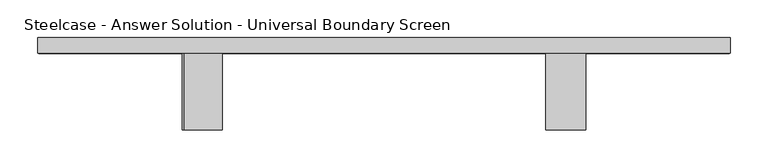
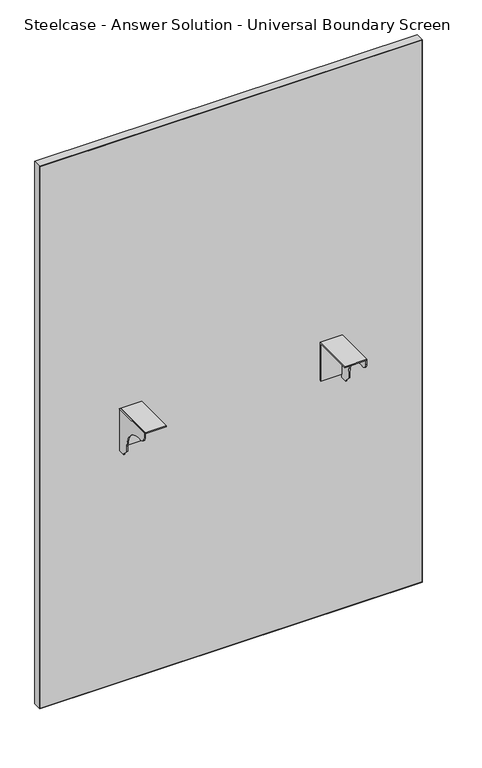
"""IFC4 building model written with IfcOpenShell, lengths in millimetres: furniture geometry, Steelcase - Answer Solution - Universal Boundary Screen : 54H x 36W."""

from ifc_helpers import new_model, si_unit, point, frame, frame_2d, origin, place, context, project, spatial, polyline, circle_curve, trimmed, segment, composite_curve, outline, extrude, source, transform, mapped, element, save


def steelcase_answer_solution_universal_boundary_screen_0e4965b4(model_context):
    return source(origin(), model_context, "Body", "SweptSolid", [
        extrude(outline(polyline([(-103.1670434, 689.3558876), (-103.1670434, 692.1499758), (-1.5668826, 692.1499758), (-1.5668826, 595.5029317), (-4.1079736, 595.5029317), (-4.1079736, 689.3558876), (-103.1670434, 689.3558876)])), frame((743.4336711, 0.0, 0.0), z_axis=(1.0, 0.0, 0.0), x_axis=(0.0, 1.0, 0.0)), (0.0, 0.0, 1.0), 53.3444116),
        extrude(outline(composite_curve([segment(polyline([(-103.1670434, 679.2814802), (-103.1670434, 692.1499758), (-1.5668826, 692.1499758), (-1.5668826, 586.9634093), (-19.8232934, 586.9634093), (-19.8232934, 589.7574248), (-32.0458032, 601.9799346), (-32.0458032, 615.7814802)]), True, "CONTINUOUS"), segment(trimmed(circle_curve(frame_2d((-82.8458032, 615.7814802)), 50.8), [point((-32.0458032, 615.7814802))], [point((-82.8458032, 666.5814802))], True, "CARTESIAN"), True, "CONTINUOUS"), segment(polyline([(-82.8458032, 666.5814802), (-90.4670434, 666.5814802)]), True, "CONTINUOUS"), segment(trimmed(circle_curve(frame_2d((-90.4670434, 679.2814802)), 12.7), [point((-90.4670434, 666.5814802))], [point((-103.1670434, 679.2814802))], False, "CARTESIAN"), True, "CONTINUOUS")], self_intersect=False)), frame((794.2328959, 0.0, 0.0), z_axis=(1.0, 0.0, 0.0), x_axis=(0.0, 1.0, 0.0)), (0.0, 0.0, 1.0), 2.5451868),
        extrude(outline(polyline([(-103.1670434, 689.3558876), (-103.1670434, 692.1499758), (-1.5668826, 692.1499758), (-1.5668826, 595.5029317), (-4.1079736, 595.5029317), (-4.1079736, 689.3558876), (-103.1670434, 689.3558876)])), frame((265.9232694, 0.0, 0.0), z_axis=(1.0, 0.0, 0.0), x_axis=(0.0, 1.0, 0.0)), (0.0, 0.0, 1.0), 50.7992249),
        extrude(outline(composite_curve([segment(polyline([(-103.1670434, 679.2814802), (-103.1670434, 692.1499758), (-1.5668826, 692.1499758), (-1.5668826, 586.9634093), (-19.8232934, 586.9634093), (-19.8232934, 589.7574248), (-32.0458032, 601.9799346), (-32.0458032, 615.7814802)]), True, "CONTINUOUS"), segment(trimmed(circle_curve(frame_2d((-82.8458032, 615.7814802)), 50.8), [point((-32.0458032, 615.7814802))], [point((-82.8458032, 666.5814802))], True, "CARTESIAN"), True, "CONTINUOUS"), segment(polyline([(-82.8458032, 666.5814802), (-90.4670434, 666.5814802)]), True, "CONTINUOUS"), segment(trimmed(circle_curve(frame_2d((-90.4670434, 679.2814802)), 12.7), [point((-90.4670434, 666.5814802))], [point((-103.1670434, 679.2814802))], False, "CARTESIAN"), True, "CONTINUOUS")], self_intersect=False)), frame((263.3780827, 0.0, 0.0), z_axis=(1.0, 0.0, 0.0), x_axis=(0.0, 1.0, 0.0)), (0.0, 0.0, 1.0), 2.5451868),
        extrude(outline(polyline([(73.8706578, 18.9055112), (986.2855076, 18.9055112), (986.2855076, -1.5668826), (73.8706578, -1.5668826), (73.8706578, 18.9055112)])), frame((0.0, 0.0, 1.016), z_axis=(0.0, 0.0, 1.0), x_axis=(1.0, 0.0, 0.0)), (0.0, 0.0, 1.0), 1369.5914249),
        extrude(outline(polyline([(1371.6, 987.2780827), (1371.6, 72.8780827), (0.0, 72.8780827), (0.0, 987.2780827), (1371.6, 987.2780827)]), holes=[polyline([(1370.6074249, 986.2855076), (1.016, 986.2855076), (1.016, 73.8706578), (1370.6074249, 73.8706578), (1370.6074249, 986.2855076)])]), frame((0.0, -1.5668826, 0.0), z_axis=(0.0, 1.0, 0.0), x_axis=(0.0, 0.0, 1.0)), (0.0, 0.0, 1.0), 20.4723938),
    ])


if __name__ == "__main__":
    model = new_model("IFC4")
    model_context = context("Model", 3, world=origin())
    ifc_project = project(units=[si_unit("LENGTHUNIT", "METRE", prefix="MILLI")], contexts=[model_context])
    site = spatial("IfcSite", under=ifc_project)
    building = spatial("IfcBuilding", under=site)
    placement = place(None, origin())
    steelcase_answer_solution_universal_boundary_screen_shape = steelcase_answer_solution_universal_boundary_screen_0e4965b4(model_context)
    element("IfcFurniture", 1, ObjectType="Steelcase - Answer Solution - Universal Boundary Screen : 54H x 36W", at=placement, inside=building, context=model_context, shape_type="MappedRepresentation", body=[
        mapped(steelcase_answer_solution_universal_boundary_screen_shape, transform((0.0, 0.0, 0.0), x_axis=(1.0, 0.0, 0.0), y_axis=(0.0, 1.0, 0.0), z_axis=(0.0, 0.0, 1.0))),
    ])
    save(model, "model.ifc")
